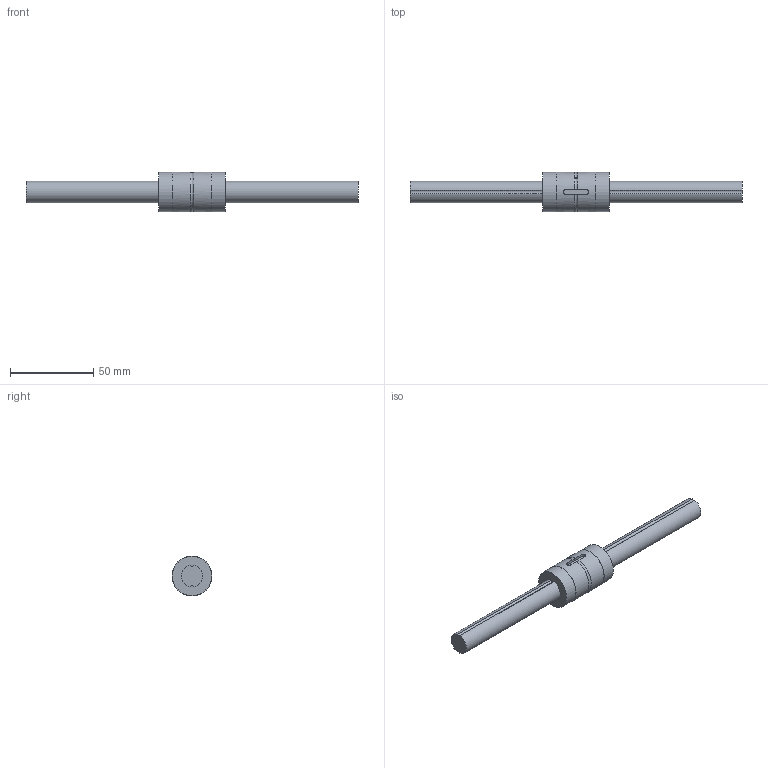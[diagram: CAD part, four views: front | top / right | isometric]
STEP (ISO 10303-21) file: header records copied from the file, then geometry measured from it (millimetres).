
FILE_DESCRIPTION((''),'2;1');
FILE_NAME('C:\Documents and Settings\土屋\My Documents\土屋移動用フォルダ\製品 (図面)\カタログ用3D\ボールスプライン\BSP\BSP13.stp','2015-02-23T13:26:59',('y'),(''),'Autodesk Inventor 11','Autodesk Inventor 11','');
FILE_SCHEMA(('AUTOMOTIVE_DESIGN { 1 0 10303 214 1 1 1 1 }'));
Length unit declared in the file: millimetre
Products named in the file (3): BSP13; BSP13軸; BSP13ナット
Assembly tree (2 placements, depth 2):
  BSP13
    BSP13軸
    BSP13ナット
Bounding box: 200 x 24 x 24 mm (x, y, z)
Volume: 38831.5 mm3; surface area: 13930.7 mm2
Topology: 2 solids, 2 shells, 28 faces, 62 edges, 42 vertices
Faces by surface type: cylinder 15, plane 10, bspline 3
Full cylindrical faces by diameter (mm): 1.5 x1, 23.8 x2, 24 x2
Entity records: 1073 total; most frequent: CARTESIAN_POINT 405, DIRECTION 134, ORIENTED_EDGE 108, AXIS2_PLACEMENT_3D 58, EDGE_CURVE 54, VERTEX_POINT 40, EDGE_LOOP 40, CIRCLE 28
